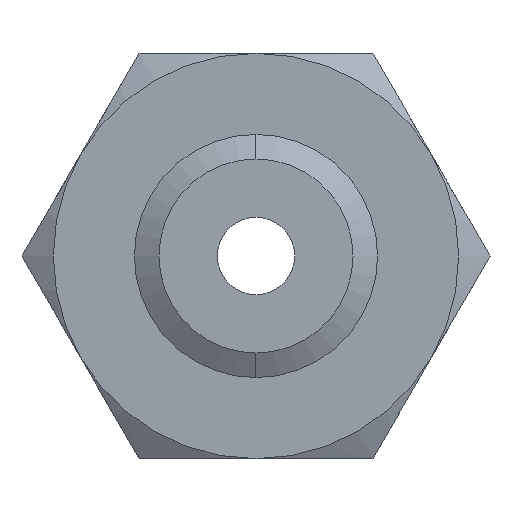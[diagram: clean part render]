
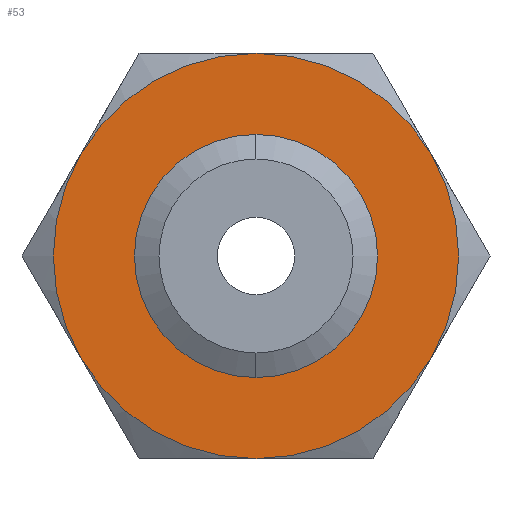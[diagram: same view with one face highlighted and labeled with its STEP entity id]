
A CAD part, front view. The second image highlights one B-rep face of the part: STEP entity #53.
In plain terms, the highlighted planar face has unit normal (0, -1, 0).
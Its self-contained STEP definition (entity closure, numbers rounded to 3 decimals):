
#18 = ORIENTED_EDGE ( 'NONE', *, *, #45, .F. ) ;
#21 = VERTEX_POINT ( 'NONE', #324 ) ;
#45 = EDGE_CURVE ( 'NONE', #48, #50, #359, .T. ) ;
#48 = VERTEX_POINT ( 'NONE', #346 ) ;
#49 = ORIENTED_EDGE ( 'NONE', *, *, #51, .F. ) ;
#50 = VERTEX_POINT ( 'NONE', #345 ) ;
#51 = EDGE_CURVE ( 'NONE', #50, #21, #343, .T. ) ;
#52 = EDGE_LOOP ( 'NONE', ( #49, #18, #1950, #1970, #1995, #1983 ) ) ;
#53 = ADVANCED_FACE ( 'NONE', ( #344, #338 ), #337, .F. ) ;
#253 = EDGE_CURVE ( 'NONE', #254, #255, #710, .T. ) ;
#254 = VERTEX_POINT ( 'NONE', #705 ) ;
#255 = VERTEX_POINT ( 'NONE', #704 ) ;
#324 = CARTESIAN_POINT ( 'NONE',  ( 21.651, 0., 12.5 ) ) ;
#336 = AXIS2_PLACEMENT_3D ( 'NONE', #397, #396, #395 ) ;
#337 = PLANE ( 'NONE',  #336 ) ;
#338 = FACE_BOUND ( 'NONE', #1974, .T. ) ;
#339 = DIRECTION ( 'NONE',  ( 0., 0., 1. ) ) ;
#340 = DIRECTION ( 'NONE',  ( 0., 1., 0. ) ) ;
#341 = CARTESIAN_POINT ( 'NONE',  ( 0., 0., 0. ) ) ;
#342 = AXIS2_PLACEMENT_3D ( 'NONE', #341, #340, #339 ) ;
#343 = CIRCLE ( 'NONE', #342, 25. ) ;
#344 = FACE_OUTER_BOUND ( 'NONE', #52, .T. ) ;
#345 = CARTESIAN_POINT ( 'NONE',  ( 0., 0., 25. ) ) ;
#346 = CARTESIAN_POINT ( 'NONE',  ( -21.651, 0., 12.5 ) ) ;
#351 = DIRECTION ( 'NONE',  ( 0., 0., 1. ) ) ;
#352 = DIRECTION ( 'NONE',  ( 0., 1., 0. ) ) ;
#353 = CARTESIAN_POINT ( 'NONE',  ( 0., 0., 0. ) ) ;
#354 = AXIS2_PLACEMENT_3D ( 'NONE', #353, #352, #351 ) ;
#359 = CIRCLE ( 'NONE', #354, 25. ) ;
#395 = DIRECTION ( 'NONE',  ( 0., 0., 1. ) ) ;
#396 = DIRECTION ( 'NONE',  ( 0., 1., 0. ) ) ;
#397 = CARTESIAN_POINT ( 'NONE',  ( 14.434, 0., -25. ) ) ;
#704 = CARTESIAN_POINT ( 'NONE',  ( 0., 0., 11.969 ) ) ;
#705 = CARTESIAN_POINT ( 'NONE',  ( 0., 0., -11.969 ) ) ;
#706 = DIRECTION ( 'NONE',  ( 0., 0., -1. ) ) ;
#707 = DIRECTION ( 'NONE',  ( 0., -1., 0. ) ) ;
#708 = CARTESIAN_POINT ( 'NONE',  ( 0., 0., 0. ) ) ;
#709 = AXIS2_PLACEMENT_3D ( 'NONE', #708, #707, #706 ) ;
#710 = CIRCLE ( 'NONE', #709, 11.969 ) ;
#1256 = DIRECTION ( 'NONE',  ( 0., 0., -1. ) ) ;
#1257 = DIRECTION ( 'NONE',  ( 0., -1., 0. ) ) ;
#1258 = CARTESIAN_POINT ( 'NONE',  ( 0., 0., 0. ) ) ;
#1259 = AXIS2_PLACEMENT_3D ( 'NONE', #1258, #1257, #1256 ) ;
#1260 = CIRCLE ( 'NONE', #1259, 11.969 ) ;
#1261 = DIRECTION ( 'NONE',  ( 0., 0., 1. ) ) ;
#1262 = DIRECTION ( 'NONE',  ( 0., 1., 0. ) ) ;
#1263 = CARTESIAN_POINT ( 'NONE',  ( 0., 0., 0. ) ) ;
#1264 = AXIS2_PLACEMENT_3D ( 'NONE', #1263, #1262, #1261 ) ;
#1265 = CIRCLE ( 'NONE', #1264, 25. ) ;
#1266 = DIRECTION ( 'NONE',  ( 0., 0., 1. ) ) ;
#1267 = DIRECTION ( 'NONE',  ( 0., 1., 0. ) ) ;
#1268 = CARTESIAN_POINT ( 'NONE',  ( 0., 0., 0. ) ) ;
#1269 = AXIS2_PLACEMENT_3D ( 'NONE', #1268, #1267, #1266 ) ;
#1270 = CIRCLE ( 'NONE', #1269, 25. ) ;
#1271 = CARTESIAN_POINT ( 'NONE',  ( 0., 0., -25. ) ) ;
#1281 = CARTESIAN_POINT ( 'NONE',  ( 21.651, 0., -12.5 ) ) ;
#1282 = DIRECTION ( 'NONE',  ( 0., 0., 1. ) ) ;
#1283 = DIRECTION ( 'NONE',  ( 0., 1., 0. ) ) ;
#1284 = CARTESIAN_POINT ( 'NONE',  ( 0., 0., 0. ) ) ;
#1285 = AXIS2_PLACEMENT_3D ( 'NONE', #1284, #1283, #1282 ) ;
#1286 = CIRCLE ( 'NONE', #1285, 25. ) ;
#1298 = DIRECTION ( 'NONE',  ( 0., 0., 1. ) ) ;
#1299 = DIRECTION ( 'NONE',  ( 0., 1., 0. ) ) ;
#1300 = CARTESIAN_POINT ( 'NONE',  ( 0., 0., 0. ) ) ;
#1301 = AXIS2_PLACEMENT_3D ( 'NONE', #1300, #1299, #1298 ) ;
#1302 = CIRCLE ( 'NONE', #1301, 25. ) ;
#1384 = CARTESIAN_POINT ( 'NONE',  ( -21.651, 0., -12.5 ) ) ;
#1950 = ORIENTED_EDGE ( 'NONE', *, *, #1994, .F. ) ;
#1967 = ORIENTED_EDGE ( 'NONE', *, *, #253, .F. ) ;
#1970 = ORIENTED_EDGE ( 'NONE', *, *, #1980, .F. ) ;
#1974 = EDGE_LOOP ( 'NONE', ( #1967, #1986 ) ) ;
#1977 = VERTEX_POINT ( 'NONE', #1271 ) ;
#1980 = EDGE_CURVE ( 'NONE', #1977, #2027, #1270, .T. ) ;
#1981 = EDGE_CURVE ( 'NONE', #21, #1997, #1265, .T. ) ;
#1982 = EDGE_CURVE ( 'NONE', #255, #254, #1260, .T. ) ;
#1983 = ORIENTED_EDGE ( 'NONE', *, *, #1981, .F. ) ;
#1986 = ORIENTED_EDGE ( 'NONE', *, *, #1982, .F. ) ;
#1990 = EDGE_CURVE ( 'NONE', #1997, #1977, #1302, .T. ) ;
#1994 = EDGE_CURVE ( 'NONE', #2027, #48, #1286, .T. ) ;
#1995 = ORIENTED_EDGE ( 'NONE', *, *, #1990, .F. ) ;
#1997 = VERTEX_POINT ( 'NONE', #1281 ) ;
#2027 = VERTEX_POINT ( 'NONE', #1384 ) ;
